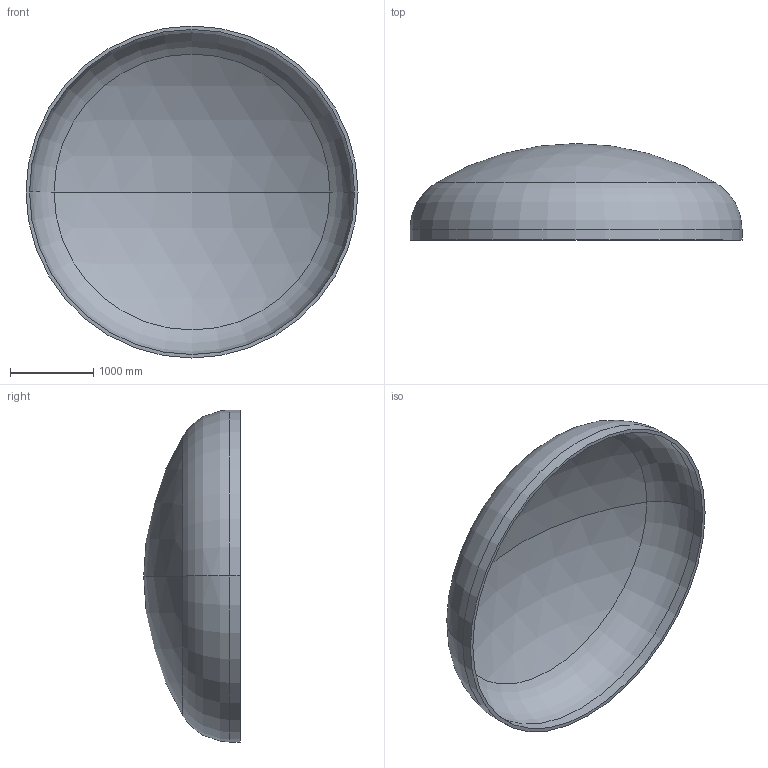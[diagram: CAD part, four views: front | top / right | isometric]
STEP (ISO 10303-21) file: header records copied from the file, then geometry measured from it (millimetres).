
FILE_DESCRIPTION (( 'STEP AP203' ), '1' );
FILE_NAME ('DIN 28013 Korbbogenform_-_Boden DIN 28013 - 4000 x 130 - I - s=42.step', '2016-07-01T22:23:58', ( '' ), ( '' ), 'SwSTEP 2.0', 'SolidWorks 2013', '' );
FILE_SCHEMA (( 'CONFIG_CONTROL_DESIGN' ));
Length unit declared in the file: millimetre
Products named in the file (1): DIN 28013 Korbbogenform_-_Boden DIN 28013 - 4000 x 130 - I - s=42
Bounding box: 4000 x 1163.25 x 4000 mm (x, y, z)
Volume: 788560365.4 mm3; surface area: 38076420.2 mm2
Topology: 1 solids, 1 shells, 13 faces, 24 edges, 14 vertices
Faces by surface type: torus 4, cylinder 4, sphere 4, plane 1
Entity records: 407 total; most frequent: DIRECTION 72, CARTESIAN_POINT 52, ORIENTED_EDGE 48, AXIS2_PLACEMENT_3D 34, EDGE_CURVE 24, CIRCLE 20, EDGE_LOOP 14, VERTEX_POINT 14
